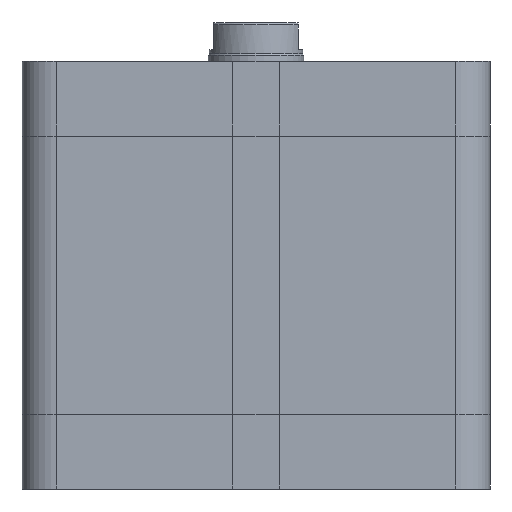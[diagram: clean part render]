
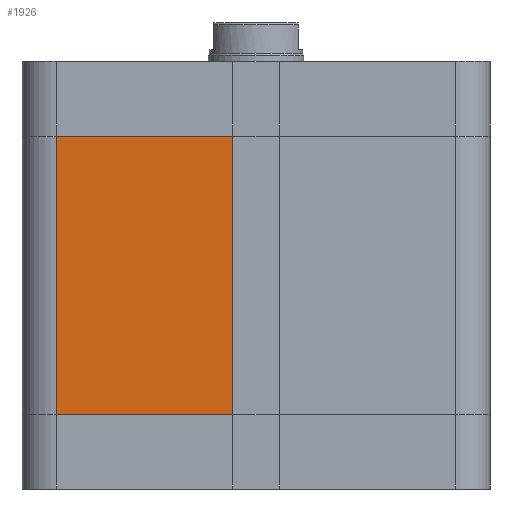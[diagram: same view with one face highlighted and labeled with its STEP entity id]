
A CAD part, front view. The second image highlights one B-rep face of the part: STEP entity #1926.
In plain terms, the highlighted planar face has unit normal (0, -1, 0).
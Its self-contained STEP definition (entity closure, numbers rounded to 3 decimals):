
#1837=CARTESIAN_POINT('',(-52.0,-61.,19.5));
#1838=VERTEX_POINT('',#1837);
#1846=CARTESIAN_POINT('',(-52.0,-61.,92.0));
#1847=VERTEX_POINT('',#1846);
#1848=CARTESIAN_POINT('',(-52.0,-61.,19.5));
#1849=DIRECTION('',(0.0,0.0,1.0));
#1850=VECTOR('',#1849,72.5);
#1851=LINE('',#1848,#1850);
#1852=EDGE_CURVE('',#1838,#1847,#1851,.T.);
#1896=CARTESIAN_POINT('',(-6.,-61.,0.0));
#1897=DIRECTION('',(0.0,-1.0,0.0));
#1898=DIRECTION('',(0.0,0.0,-1.0));
#1899=AXIS2_PLACEMENT_3D('',#1896,#1897,#1898);
#1900=PLANE('',#1899);
#1901=CARTESIAN_POINT('',(-6.,-61.,19.5));
#1902=VERTEX_POINT('',#1901);
#1903=CARTESIAN_POINT('',(-52.0,-61.,19.5));
#1904=DIRECTION('',(1.0,0.0,0.0));
#1905=VECTOR('',#1904,46.0);
#1906=LINE('',#1903,#1905);
#1907=EDGE_CURVE('',#1838,#1902,#1906,.T.);
#1908=ORIENTED_EDGE('',*,*,#1907,.T.);
#1909=CARTESIAN_POINT('',(-6.,-61.,92.0));
#1910=VERTEX_POINT('',#1909);
#1911=CARTESIAN_POINT('',(-6.,-61.,19.5));
#1912=DIRECTION('',(0.0,0.0,1.0));
#1913=VECTOR('',#1912,72.5);
#1914=LINE('',#1911,#1913);
#1915=EDGE_CURVE('',#1902,#1910,#1914,.T.);
#1916=ORIENTED_EDGE('',*,*,#1915,.T.);
#1917=CARTESIAN_POINT('',(-52.0,-61.,92.0));
#1918=DIRECTION('',(1.0,0.0,0.0));
#1919=VECTOR('',#1918,46.0);
#1920=LINE('',#1917,#1919);
#1921=EDGE_CURVE('',#1847,#1910,#1920,.T.);
#1922=ORIENTED_EDGE('',*,*,#1921,.F.);
#1923=ORIENTED_EDGE('',*,*,#1852,.F.);
#1924=EDGE_LOOP('',(#1908,#1916,#1922,#1923));
#1925=FACE_OUTER_BOUND('',#1924,.T.);
#1926=ADVANCED_FACE('',(#1925),#1900,.T.);
